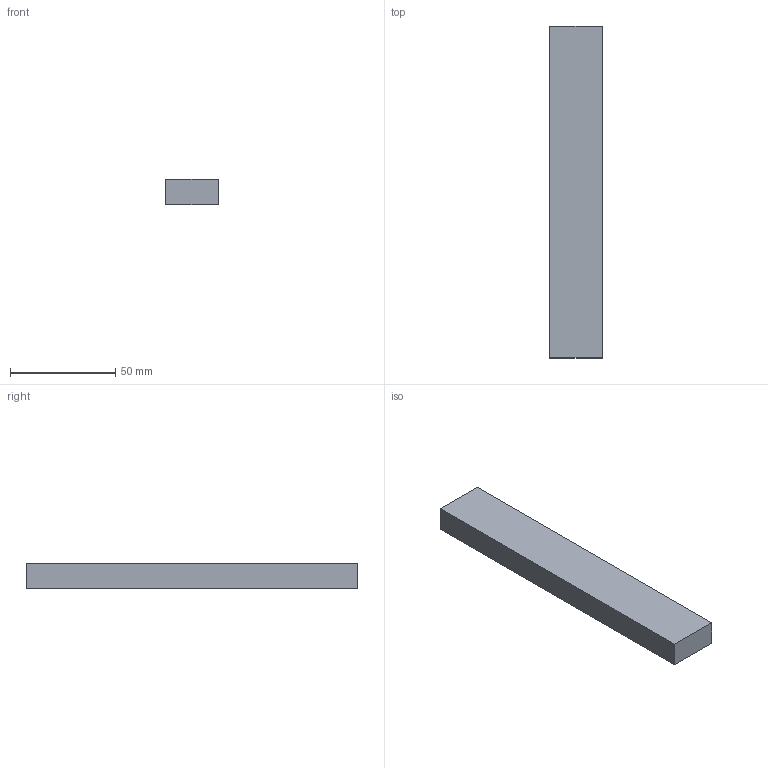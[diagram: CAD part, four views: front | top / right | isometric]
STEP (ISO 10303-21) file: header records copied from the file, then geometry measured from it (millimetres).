
FILE_DESCRIPTION(('Open CASCADE Model'),'2;1');
FILE_NAME('Open CASCADE Shape Model','2026-10-04T02:31:41',('Author'),( 'Open CASCADE'),'Open CASCADE STEP processor 8.0','Open CASCADE 8.0' ,'Unknown');
FILE_SCHEMA(('AUTOMOTIVE_DESIGN { 1 0 10303 214 1 1 1 1 }'));
Length unit declared in the file: millimetre
Products named in the file (1): Open CASCADE STEP translator 8.0 231
Bounding box: 25 x 158 x 12 mm (x, y, z)
Volume: 47400 mm3; surface area: 12292 mm2
Topology: 1 solids, 1 shells, 6 faces, 12 edges, 8 vertices
Faces by surface type: plane 6
Entity records: 322 total; most frequent: CARTESIAN_POINT 51, DIRECTION 50, LINE 36, VECTOR 36, ORIENTED_EDGE 24, PCURVE 24, DEFINITIONAL_REPRESENTATION 24, EDGE_CURVE 12
